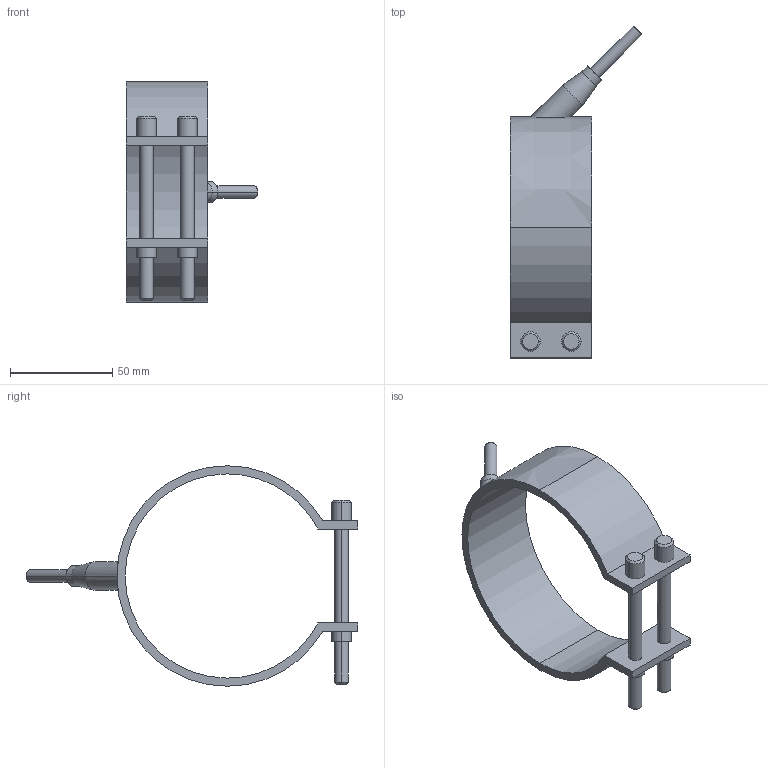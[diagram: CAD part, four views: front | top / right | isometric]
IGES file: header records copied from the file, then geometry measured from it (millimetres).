
Start section: START RECORD GO HERE.
Global section: file name: 29100040.igs; native system: DASSAULT SYSTEMES CATIA V5 R20 - www.3ds.com; preprocessor: CATIA Version 5 Release 20 ; author: Utente; organization: NB04-ASUS; date: 20210329.151931; units: millimetre
Bounding box: 64.55 x 162.55 x 108 mm (x, y, z)
Surface area: 32875.2 mm2 (no closed solid volume)
Topology: 0 solids, 0 shells, 54 faces, 242 edges, 242 vertices
Faces by surface type: revolution 38, plane 16
